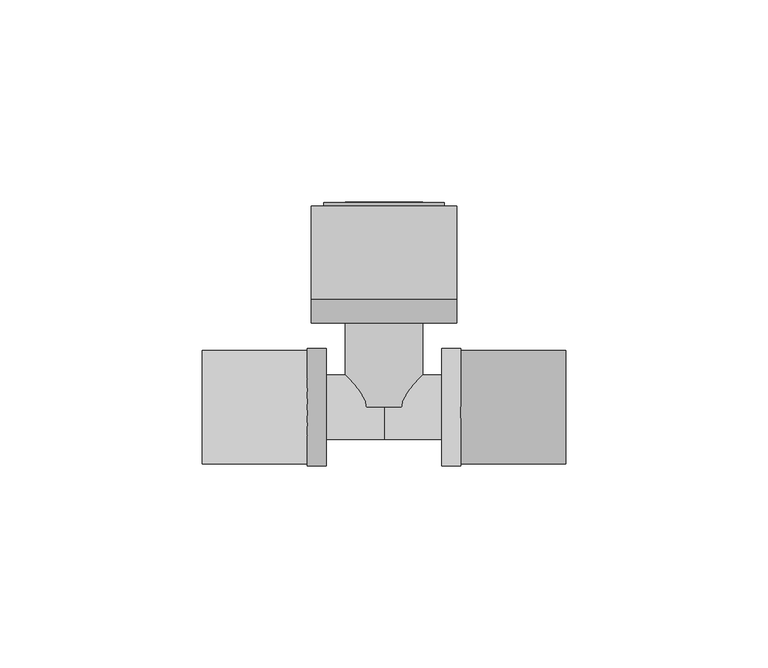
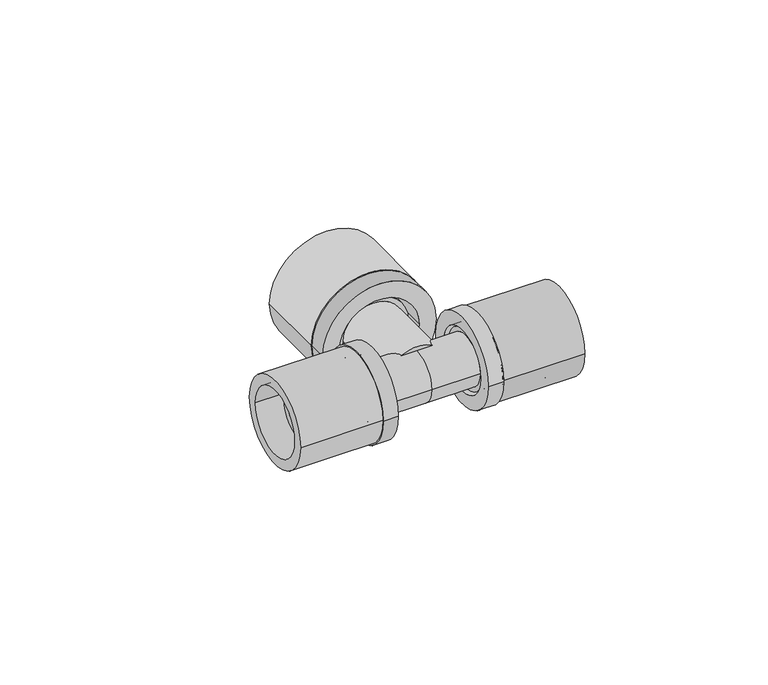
"""IFC4 building model written with IfcOpenShell, lengths in millimetres: pipe fitting geometry, FASTLOC_T-piece_EX+ : FSL T-Piece EX+ AT."""

from ifc_helpers import new_model, si_unit, point, frame, origin, origin_2d, place, context, project, spatial, polyline, circle_curve, trimmed, segment, composite_curve, outline, extrude, source, transform, mapped, element, save
from ifc_brep_helpers import plane_surface, cylinder_surface, revolved_surface, advanced_brep


def pipe_fitting_c646100e(model_context):
    return source(origin(), model_context, "Body", "SolidModel", [
        extrude(outline(composite_curve([segment(trimmed(circle_curve(origin_2d(), 14.0), [point((-14.0, 0.0))], [point((14.0, 0.0))], False, "CARTESIAN"), True, "CONTINUOUS"), segment(trimmed(circle_curve(origin_2d(), 14.0), [point((14.0, 0.0))], [point((-14.0, 0.0))], False, "CARTESIAN"), True, "CONTINUOUS")], self_intersect=False), holes=[composite_curve([segment(trimmed(circle_curve(origin_2d(), 10.7), [point((-10.7, 0.0))], [point((10.7, 0.0))], True, "CARTESIAN"), True, "CONTINUOUS"), segment(trimmed(circle_curve(origin_2d(), 10.7), [point((10.7, 0.0))], [point((-10.7, 0.0))], True, "CARTESIAN"), True, "CONTINUOUS")], self_intersect=False)]), frame((19.0, 0.0, 0.0), z_axis=(1.0, 0.0, 0.0), x_axis=(0.0, 1.0, 0.0)), (0.0, 0.0, 1.0), 26.0),
        advanced_brep(
        [(19.0, 14.5, 0.0), (19.0, -14.5, 0.0), (14.3, -14.5, 0.0), (14.3, 14.5, 0.0), (36.0, 11.85, 0.0), (36.0, -11.85, 0.0), (19.0, -11.85, 0.0), (19.0, 11.85, 0.0), (14.3, 10.15, 0.0), (14.3, -10.15, 0.0), (36.0, -10.15, 0.0), (36.0, 10.15, 0.0)],
        [
            (0, 1, circle_curve(frame((19.0, 0.0, 0.0), z_axis=(-1.0, 0.0, 0.0), x_axis=(0.0, -1.0, 0.0)), 14.5)),
            (1, 2),
            (2, 3, circle_curve(frame((14.3, 0.0, 0.0), z_axis=(1.0, 0.0, 0.0), x_axis=(0.0, -1.0, 0.0)), 14.5)),
            (3, 0),
            (4, 5, circle_curve(frame((36.0, 0.0, 0.0), z_axis=(-1.0, 0.0, 0.0), x_axis=(0.0, -1.0, 0.0)), 11.85)),
            (5, 6),
            (6, 7, circle_curve(frame((19.0, 0.0, 0.0), z_axis=(1.0, 0.0, 0.0), x_axis=(0.0, -1.0, 0.0)), 11.85)),
            (7, 4),
            (8, 9, circle_curve(frame((14.3, 0.0, 0.0), z_axis=(-1.0, 0.0, 0.0), x_axis=(0.0, -1.0, 0.0)), 10.15)),
            (9, 10),
            (10, 11, circle_curve(frame((36.0, 0.0, 0.0), z_axis=(1.0, 0.0, 0.0), x_axis=(0.0, -1.0, 0.0)), 10.15)),
            (11, 8),
            (1, 0, circle_curve(frame((19.0, 0.0, 0.0), z_axis=(-1.0, 0.0, 0.0), x_axis=(0.0, 1.0, 0.0)), 14.5)),
            (3, 2, circle_curve(frame((14.3, 0.0, 0.0), z_axis=(1.0, 0.0, 0.0), x_axis=(0.0, 1.0, 0.0)), 14.5)),
            (6, 7, circle_curve(frame((19.0, 0.0, 0.0), z_axis=(-1.0, 0.0, 0.0), x_axis=(0.0, 1.0, 0.0)), 11.85)),
            (5, 4, circle_curve(frame((36.0, 0.0, 0.0), z_axis=(-1.0, 0.0, 0.0), x_axis=(0.0, 1.0, 0.0)), 11.85)),
            (10, 11, circle_curve(frame((36.0, 0.0, 0.0), z_axis=(-1.0, 0.0, 0.0), x_axis=(0.0, 1.0, 0.0)), 10.15)),
            (9, 8, circle_curve(frame((14.3, 0.0, 0.0), z_axis=(-1.0, 0.0, 0.0), x_axis=(0.0, 1.0, 0.0)), 10.15)),
        ],
        [
            cylinder_surface(frame((14.3, 0.0, 0.0), z_axis=(1.0, 0.0, 0.0), x_axis=(0.0, -1.0, 0.0)), 14.5),
            cylinder_surface(frame((14.3, 0.0, 0.0), z_axis=(1.0, 0.0, 0.0), x_axis=(0.0, -1.0, 0.0)), 11.85),
            revolved_surface(polyline([(36.0, -10.15, 0.0), (14.3, -10.15, 0.0)]), (14.3, 0.0, 0.0), (1.0, 0.0, 0.0)),
            cylinder_surface(frame((14.3, 0.0, 0.0), z_axis=(1.0, 0.0, 0.0), x_axis=(0.0, 1.0, 0.0)), 14.5),
            plane_surface(frame((19.0, 0.0, 0.0), z_axis=(1.0, 0.0, 0.0), x_axis=(0.0, 1.0, 0.0))),
            cylinder_surface(frame((14.3, 0.0, 0.0), z_axis=(1.0, 0.0, 0.0), x_axis=(0.0, 1.0, 0.0)), 11.85),
            plane_surface(frame((36.0, 0.0, 0.0), z_axis=(1.0, 0.0, 0.0), x_axis=(0.0, 1.0, 0.0))),
            revolved_surface(polyline([(36.0, 10.15, 0.0), (14.3, 10.15, 0.0)]), (14.3, 0.0, 0.0), (1.0, 0.0, 0.0)),
            plane_surface(frame((14.3, 0.0, 0.0), z_axis=(-1.0, 0.0, 0.0), x_axis=(0.0, 1.0, 0.0))),
        ],
        [
            (0, [[1, 2, 3, 4]]),
            (1, [[5, 6, 7, 8]]),
            (2, [[9, 10, 11, 12]]),
            (3, [[13, -4, 14, -2]]),
            (4, [[-13, -1], [15, -7]]),
            (5, [[16, -8, -15, -6]]),
            (6, [[-16, -5], [17, -11]]),
            (7, [[18, -12, -17, -10]]),
            (8, [[-14, -3], [-18, -9]]),
        ],
    ),
        extrude(outline(composite_curve([segment(trimmed(circle_curve(origin_2d(), 14.0), [point((14.0, 0.0))], [point((-14.0, 0.0))], False, "CARTESIAN"), True, "CONTINUOUS"), segment(trimmed(circle_curve(origin_2d(), 14.0), [point((-14.0, 0.0))], [point((14.0, 0.0))], False, "CARTESIAN"), True, "CONTINUOUS")], self_intersect=False), holes=[composite_curve([segment(trimmed(circle_curve(origin_2d(), 10.7), [point((10.7, 0.0))], [point((-10.7, 0.0))], True, "CARTESIAN"), True, "CONTINUOUS"), segment(trimmed(circle_curve(origin_2d(), 10.7), [point((-10.7, 0.0))], [point((10.7, 0.0))], True, "CARTESIAN"), True, "CONTINUOUS")], self_intersect=False)]), frame((-45.0, 0.0, 0.0), z_axis=(1.0, 0.0, 0.0), x_axis=(0.0, 1.0, 0.0)), (0.0, 0.0, 1.0), 26.0),
        advanced_brep(
        [(-19.0, -14.5, 0.0), (-19.0, 14.5, 0.0), (-14.3, 14.5, 0.0), (-14.3, -14.5, 0.0), (-36.0, -11.85, 0.0), (-36.0, 11.85, 0.0), (-19.0, 11.85, 0.0), (-19.0, -11.85, 0.0), (-14.3, -10.15, 0.0), (-14.3, 10.15, 0.0), (-36.0, 10.15, 0.0), (-36.0, -10.15, 0.0)],
        [
            (0, 1, circle_curve(frame((-19.0, 0.0, 0.0), z_axis=(1.0, 0.0, 0.0), x_axis=(0.0, 1.0, 0.0)), 14.5)),
            (1, 2),
            (2, 3, circle_curve(frame((-14.3, 0.0, 0.0), z_axis=(-1.0, 0.0, 0.0), x_axis=(0.0, 1.0, 0.0)), 14.5)),
            (3, 0),
            (4, 5, circle_curve(frame((-36.0, 0.0, 0.0), z_axis=(1.0, 0.0, 0.0), x_axis=(0.0, 1.0, 0.0)), 11.85)),
            (5, 6),
            (6, 7, circle_curve(frame((-19.0, 0.0, 0.0), z_axis=(-1.0, 0.0, 0.0), x_axis=(0.0, 1.0, 0.0)), 11.85)),
            (7, 4),
            (8, 9, circle_curve(frame((-14.3, 0.0, 0.0), z_axis=(1.0, 0.0, 0.0), x_axis=(0.0, 1.0, 0.0)), 10.15)),
            (9, 10),
            (10, 11, circle_curve(frame((-36.0, 0.0, 0.0), z_axis=(-1.0, 0.0, 0.0), x_axis=(0.0, 1.0, 0.0)), 10.15)),
            (11, 8),
            (1, 0, circle_curve(frame((-19.0, 0.0, 0.0), z_axis=(1.0, 0.0, 0.0), x_axis=(0.0, -1.0, 0.0)), 14.5)),
            (3, 2, circle_curve(frame((-14.3, 0.0, 0.0), z_axis=(-1.0, 0.0, 0.0), x_axis=(0.0, -1.0, 0.0)), 14.5)),
            (6, 7, circle_curve(frame((-19.0, 0.0, 0.0), z_axis=(1.0, 0.0, 0.0), x_axis=(0.0, -1.0, 0.0)), 11.85)),
            (5, 4, circle_curve(frame((-36.0, 0.0, 0.0), z_axis=(1.0, 0.0, 0.0), x_axis=(0.0, -1.0, 0.0)), 11.85)),
            (10, 11, circle_curve(frame((-36.0, 0.0, 0.0), z_axis=(1.0, 0.0, 0.0), x_axis=(0.0, -1.0, 0.0)), 10.15)),
            (9, 8, circle_curve(frame((-14.3, 0.0, 0.0), z_axis=(1.0, 0.0, 0.0), x_axis=(0.0, -1.0, 0.0)), 10.15)),
        ],
        [
            cylinder_surface(frame((-14.3, 0.0, 0.0), z_axis=(-1.0, 0.0, 0.0), x_axis=(0.0, 1.0, 0.0)), 14.5),
            cylinder_surface(frame((-14.3, 0.0, 0.0), z_axis=(-1.0, 0.0, 0.0), x_axis=(0.0, 1.0, 0.0)), 11.85),
            revolved_surface(polyline([(-36.0, 10.15, 0.0), (-14.3, 10.15, 0.0)]), (-14.3, 0.0, 0.0), (-1.0, 0.0, 0.0)),
            cylinder_surface(frame((-14.3, 0.0, 0.0), z_axis=(-1.0, 0.0, 0.0), x_axis=(0.0, -1.0, 0.0)), 14.5),
            plane_surface(frame((-19.0, 0.0, 0.0), z_axis=(-1.0, 0.0, 0.0), x_axis=(0.0, -1.0, 0.0))),
            cylinder_surface(frame((-14.3, 0.0, 0.0), z_axis=(-1.0, 0.0, 0.0), x_axis=(0.0, -1.0, 0.0)), 11.85),
            plane_surface(frame((-36.0, 0.0, 0.0), z_axis=(-1.0, 0.0, 0.0), x_axis=(0.0, -1.0, 0.0))),
            revolved_surface(polyline([(-36.0, -10.15, 0.0), (-14.3, -10.15, 0.0)]), (-14.3, 0.0, 0.0), (-1.0, 0.0, 0.0)),
            plane_surface(frame((-14.3, 0.0, 0.0), z_axis=(1.0, 0.0, 0.0), x_axis=(0.0, -1.0, 0.0))),
        ],
        [
            (0, [[1, 2, 3, 4]]),
            (1, [[5, 6, 7, 8]]),
            (2, [[9, 10, 11, 12]]),
            (3, [[13, -4, 14, -2]]),
            (4, [[-13, -1], [15, -7]]),
            (5, [[16, -8, -15, -6]]),
            (6, [[-16, -5], [17, -11]]),
            (7, [[18, -12, -17, -10]]),
            (8, [[-14, -3], [-18, -9]]),
        ],
    ),
        extrude(outline(composite_curve([segment(trimmed(circle_curve(origin_2d(), 18.0), [point((0.0, 18.0))], [point((0.0, -18.0))], False, "CARTESIAN"), True, "CONTINUOUS"), segment(trimmed(circle_curve(origin_2d(), 18.0), [point((0.0, -18.0))], [point((0.0, 18.0))], False, "CARTESIAN"), True, "CONTINUOUS")], self_intersect=False), holes=[composite_curve([segment(trimmed(circle_curve(origin_2d(), 13.5), [point((0.0, 13.5))], [point((0.0, -13.5))], True, "CARTESIAN"), True, "CONTINUOUS"), segment(trimmed(circle_curve(origin_2d(), 13.5), [point((0.0, -13.5))], [point((0.0, 13.5))], True, "CARTESIAN"), True, "CONTINUOUS")], self_intersect=False)]), frame((0.0, 26.8, 0.0), z_axis=(0.0, 1.0, 0.0), x_axis=(0.0, 0.0, 1.0)), (0.0, 0.0, 1.0), 23.0),
        advanced_brep(
        [(-18.0, 26.8, 0.0), (18.0, 26.8, 0.0), (18.0, 20.8, 0.0), (-18.0, 20.8, 0.0), (-14.85, 50.6, 0.0), (14.85, 50.6, 0.0), (14.85, 26.8, 0.0), (-14.85, 26.8, 0.0), (-12.65, 20.8, 0.0), (12.65, 20.8, 0.0), (12.65, 50.6, 0.0), (-12.65, 50.6, 0.0)],
        [
            (0, 1, circle_curve(frame((0.0, 26.8, 0.0), z_axis=(0.0, -1.0, 0.0), x_axis=(1.0, 0.0, 0.0)), 18.0)),
            (1, 2),
            (2, 3, circle_curve(frame((0.0, 20.8, 0.0), z_axis=(0.0, 1.0, 0.0), x_axis=(1.0, 0.0, 0.0)), 18.0)),
            (3, 0),
            (4, 5, circle_curve(frame((0.0, 50.6, 0.0), z_axis=(0.0, -1.0, 0.0), x_axis=(1.0, 0.0, 0.0)), 14.85)),
            (5, 6),
            (6, 7, circle_curve(frame((0.0, 26.8, 0.0), z_axis=(0.0, 1.0, 0.0), x_axis=(1.0, 0.0, 0.0)), 14.85)),
            (7, 4),
            (8, 9, circle_curve(frame((0.0, 20.8, 0.0), z_axis=(0.0, -1.0, 0.0), x_axis=(1.0, 0.0, 0.0)), 12.65)),
            (9, 10),
            (10, 11, circle_curve(frame((0.0, 50.6, 0.0), z_axis=(0.0, 1.0, 0.0), x_axis=(1.0, 0.0, 0.0)), 12.65)),
            (11, 8),
            (1, 0, circle_curve(frame((0.0, 26.8, 0.0), z_axis=(0.0, -1.0, 0.0), x_axis=(-1.0, 0.0, 0.0)), 18.0)),
            (3, 2, circle_curve(frame((0.0, 20.8, 0.0), z_axis=(0.0, 1.0, 0.0), x_axis=(-1.0, 0.0, 0.0)), 18.0)),
            (6, 7, circle_curve(frame((0.0, 26.8, 0.0), z_axis=(0.0, -1.0, 0.0), x_axis=(-1.0, 0.0, 0.0)), 14.85)),
            (5, 4, circle_curve(frame((0.0, 50.6, 0.0), z_axis=(0.0, -1.0, 0.0), x_axis=(-1.0, 0.0, 0.0)), 14.85)),
            (10, 11, circle_curve(frame((0.0, 50.6, 0.0), z_axis=(0.0, -1.0, 0.0), x_axis=(-1.0, 0.0, 0.0)), 12.65)),
            (9, 8, circle_curve(frame((0.0, 20.8, 0.0), z_axis=(0.0, -1.0, 0.0), x_axis=(-1.0, 0.0, 0.0)), 12.65)),
        ],
        [
            cylinder_surface(frame((0.0, 20.8, 0.0), z_axis=(0.0, 1.0, 0.0), x_axis=(1.0, 0.0, 0.0)), 18.0),
            cylinder_surface(frame((0.0, 20.8, 0.0), z_axis=(0.0, 1.0, 0.0), x_axis=(1.0, 0.0, 0.0)), 14.85),
            revolved_surface(polyline([(12.65, 50.6, 0.0), (12.65, 20.8, 0.0)]), (0.0, 20.8, 0.0), (0.0, 1.0, 0.0)),
            cylinder_surface(frame((0.0, 20.8, 0.0), z_axis=(0.0, 1.0, 0.0), x_axis=(-1.0, 0.0, 0.0)), 18.0),
            plane_surface(frame((0.0, 26.8, 0.0), z_axis=(0.0, 1.0, 0.0), x_axis=(-1.0, 0.0, 0.0))),
            cylinder_surface(frame((0.0, 20.8, 0.0), z_axis=(0.0, 1.0, 0.0), x_axis=(-1.0, 0.0, 0.0)), 14.85),
            plane_surface(frame((0.0, 50.6, 0.0), z_axis=(0.0, 1.0, 0.0), x_axis=(-1.0, 0.0, 0.0))),
            revolved_surface(polyline([(-12.65, 50.6, 0.0), (-12.65, 20.8, 0.0)]), (0.0, 20.8, 0.0), (0.0, 1.0, 0.0)),
            plane_surface(frame((0.0, 20.8, 0.0), z_axis=(0.0, -1.0, 0.0), x_axis=(-1.0, 0.0, 0.0))),
        ],
        [
            (0, [[1, 2, 3, 4]]),
            (1, [[5, 6, 7, 8]]),
            (2, [[9, 10, 11, 12]]),
            (3, [[13, -4, 14, -2]]),
            (4, [[-13, -1], [15, -7]]),
            (5, [[16, -8, -15, -6]]),
            (6, [[-16, -5], [17, -11]]),
            (7, [[18, -12, -17, -10]]),
            (8, [[-14, -3], [-18, -9]]),
        ],
    ),
        advanced_brep(
        [(0.0, 8.0, 0.0), (0.0, -8.0, 0.0), (-15.3, -8.0, 0.0), (-15.3, 8.0, 0.0), (15.3, 8.0, 0.0), (15.3, -8.0, 0.0), (18.75, 9.425, 0.0), (18.75, -9.425, 0.0), (15.3, -9.425, 0.0), (15.3, 9.425, 0.0), (37.5, 8.0, 0.0), (37.5, -8.0, 0.0), (18.75, -8.0, 0.0), (18.75, 8.0, 0.0), (-37.5, 5.75, 0.0), (-37.5, -5.75, 0.0), (37.5, -5.75, 0.0), (37.5, 5.75, 0.0), (-18.75, 8.0, 0.0), (-18.75, -8.0, 0.0), (-37.5, -8.0, 0.0), (-37.5, 8.0, 0.0), (-15.3, 9.425, 0.0), (-15.3, -9.425, 0.0), (-18.75, -9.425, 0.0), (-18.75, 9.425, 0.0)],
        [
            (0, 1, circle_curve(frame((0.0, 0.0, 0.0), z_axis=(-1.0, 0.0, 0.0), x_axis=(0.0, -1.0, 0.0)), 8.0)),
            (1, 2),
            (2, 3, circle_curve(frame((-15.3, 0.0, 0.0), z_axis=(1.0, 0.0, 0.0), x_axis=(0.0, -1.0, 0.0)), 8.0)),
            (3, 0),
            (4, 5, circle_curve(frame((15.3, 0.0, 0.0), z_axis=(-1.0, 0.0, 0.0), x_axis=(0.0, -1.0, 0.0)), 8.0)),
            (5, 1),
            (0, 4),
            (6, 7, circle_curve(frame((18.75, 0.0, 0.0), z_axis=(-1.0, 0.0, 0.0), x_axis=(0.0, -1.0, 0.0)), 9.425)),
            (7, 8),
            (8, 9, circle_curve(frame((15.3, 0.0, 0.0), z_axis=(1.0, 0.0, 0.0), x_axis=(0.0, -1.0, 0.0)), 9.425)),
            (9, 6),
            (10, 11, circle_curve(frame((37.5, 0.0, 0.0), z_axis=(-1.0, 0.0, 0.0), x_axis=(0.0, -1.0, 0.0)), 8.0)),
            (11, 12),
            (12, 13, circle_curve(frame((18.75, 0.0, 0.0), z_axis=(1.0, 0.0, 0.0), x_axis=(0.0, -1.0, 0.0)), 8.0)),
            (13, 10),
            (14, 15, circle_curve(frame((-37.5, 0.0, 0.0), z_axis=(-1.0, 0.0, 0.0), x_axis=(0.0, -1.0, 0.0)), 5.75)),
            (15, 16),
            (16, 17, circle_curve(frame((37.5, 0.0, 0.0), z_axis=(1.0, 0.0, 0.0), x_axis=(0.0, -1.0, 0.0)), 5.75)),
            (17, 14),
            (18, 19, circle_curve(frame((-18.75, 0.0, 0.0), z_axis=(-1.0, 0.0, 0.0), x_axis=(0.0, -1.0, 0.0)), 8.0)),
            (19, 20),
            (20, 21, circle_curve(frame((-37.5, 0.0, 0.0), z_axis=(1.0, 0.0, 0.0), x_axis=(0.0, -1.0, 0.0)), 8.0)),
            (21, 18),
            (22, 23, circle_curve(frame((-15.3, 0.0, 0.0), z_axis=(-1.0, 0.0, 0.0), x_axis=(0.0, -1.0, 0.0)), 9.425)),
            (23, 24),
            (24, 25, circle_curve(frame((-18.75, 0.0, 0.0), z_axis=(1.0, 0.0, 0.0), x_axis=(0.0, -1.0, 0.0)), 9.425)),
            (25, 22),
            (22, 23, circle_curve(frame((-15.3, 0.0, 0.0), z_axis=(1.0, 0.0, 0.0), x_axis=(0.0, 1.0, 0.0)), 9.425)),
            (2, 3, circle_curve(frame((-15.3, 0.0, 0.0), z_axis=(-1.0, 0.0, 0.0), x_axis=(0.0, 1.0, 0.0)), 8.0)),
            (1, 0, circle_curve(frame((0.0, 0.0, 0.0), z_axis=(-1.0, 0.0, 0.0), x_axis=(0.0, 1.0, 0.0)), 8.0)),
            (5, 4, circle_curve(frame((15.3, 0.0, 0.0), z_axis=(-1.0, 0.0, 0.0), x_axis=(0.0, 1.0, 0.0)), 8.0)),
            (8, 9, circle_curve(frame((15.3, 0.0, 0.0), z_axis=(-1.0, 0.0, 0.0), x_axis=(0.0, 1.0, 0.0)), 9.425)),
            (7, 6, circle_curve(frame((18.75, 0.0, 0.0), z_axis=(-1.0, 0.0, 0.0), x_axis=(0.0, 1.0, 0.0)), 9.425)),
            (12, 13, circle_curve(frame((18.75, 0.0, 0.0), z_axis=(-1.0, 0.0, 0.0), x_axis=(0.0, 1.0, 0.0)), 8.0)),
            (11, 10, circle_curve(frame((37.5, 0.0, 0.0), z_axis=(-1.0, 0.0, 0.0), x_axis=(0.0, 1.0, 0.0)), 8.0)),
            (16, 17, circle_curve(frame((37.5, 0.0, 0.0), z_axis=(-1.0, 0.0, 0.0), x_axis=(0.0, 1.0, 0.0)), 5.75)),
            (15, 14, circle_curve(frame((-37.5, 0.0, 0.0), z_axis=(-1.0, 0.0, 0.0), x_axis=(0.0, 1.0, 0.0)), 5.75)),
            (20, 21, circle_curve(frame((-37.5, 0.0, 0.0), z_axis=(-1.0, 0.0, 0.0), x_axis=(0.0, 1.0, 0.0)), 8.0)),
            (19, 18, circle_curve(frame((-18.75, 0.0, 0.0), z_axis=(-1.0, 0.0, 0.0), x_axis=(0.0, 1.0, 0.0)), 8.0)),
            (24, 25, circle_curve(frame((-18.75, 0.0, 0.0), z_axis=(-1.0, 0.0, 0.0), x_axis=(0.0, 1.0, 0.0)), 9.425)),
        ],
        [
            cylinder_surface(frame((0.0, 0.0, 0.0), z_axis=(1.0, 0.0, 0.0), x_axis=(0.0, -1.0, 0.0)), 8.0),
            cylinder_surface(frame((0.0, 0.0, 0.0), z_axis=(1.0, 0.0, 0.0), x_axis=(0.0, -1.0, 0.0)), 9.425),
            revolved_surface(polyline([(37.5, -5.75, 0.0), (-37.5, -5.75, 0.0)]), (0.0, 0.0, 0.0), (1.0, 0.0, 0.0)),
            plane_surface(frame((-15.3, 0.0, 0.0), z_axis=(1.0, 0.0, 0.0), x_axis=(0.0, 1.0, 0.0))),
            cylinder_surface(frame((0.0, 0.0, 0.0), z_axis=(1.0, 0.0, 0.0), x_axis=(0.0, 1.0, 0.0)), 8.0),
            plane_surface(frame((15.3, 0.0, 0.0), z_axis=(-1.0, 0.0, 0.0), x_axis=(0.0, 1.0, 0.0))),
            cylinder_surface(frame((0.0, 0.0, 0.0), z_axis=(1.0, 0.0, 0.0), x_axis=(0.0, 1.0, 0.0)), 9.425),
            plane_surface(frame((18.75, 0.0, 0.0), z_axis=(1.0, 0.0, 0.0), x_axis=(0.0, 1.0, 0.0))),
            plane_surface(frame((37.5, 0.0, 0.0), z_axis=(1.0, 0.0, 0.0), x_axis=(0.0, 1.0, 0.0))),
            revolved_surface(polyline([(37.5, 5.75, 0.0), (-37.5, 5.75, 0.0)]), (0.0, 0.0, 0.0), (1.0, 0.0, 0.0)),
            plane_surface(frame((-37.5, 0.0, 0.0), z_axis=(-1.0, 0.0, 0.0), x_axis=(0.0, 1.0, 0.0))),
            plane_surface(frame((-18.75, 0.0, 0.0), z_axis=(-1.0, 0.0, 0.0), x_axis=(0.0, 1.0, 0.0))),
        ],
        [
            (0, [[1, 2, 3, 4]]),
            (0, [[5, 6, -1, 7]]),
            (1, [[8, 9, 10, 11]]),
            (0, [[12, 13, 14, 15]]),
            (2, [[16, 17, 18, 19]]),
            (0, [[20, 21, 22, 23]]),
            (1, [[24, 25, 26, 27]]),
            (3, [[28, -24], [29, -3]]),
            (4, [[30, -4, -29, -2]]),
            (4, [[31, -7, -30, -6]]),
            (5, [[32, -10], [-31, -5]]),
            (6, [[33, -11, -32, -9]]),
            (7, [[-33, -8], [34, -14]]),
            (4, [[35, -15, -34, -13]]),
            (8, [[-35, -12], [36, -18]]),
            (9, [[37, -19, -36, -17]]),
            (10, [[38, -22], [-37, -16]]),
            (4, [[39, -23, -38, -21]]),
            (11, [[40, -26], [-39, -20]]),
            (6, [[-28, -27, -40, -25]]),
        ],
    ),
        advanced_brep(
        [(7.35, 50.8, 0.0), (-7.35, 50.8, 0.0), (-7.35, 0.0, 0.0), (7.35, 0.0, 0.0), (9.6, 0.0, 0.0), (-9.6, 0.0, 0.0), (-9.6, 24.0, 0.0), (9.6, 24.0, 0.0), (11.1, 24.0, 0.0), (-11.1, 24.0, 0.0), (-11.1, 26.8, 0.0), (11.1, 26.8, 0.0), (9.6, 26.8, 0.0), (-9.6, 26.8, 0.0), (-9.6, 50.8, 0.0), (9.6, 50.8, 0.0)],
        [
            (0, 1, circle_curve(frame((0.0, 50.8, 0.0), z_axis=(0.0, 1.0, 0.0), x_axis=(-1.0, 0.0, 0.0)), 7.35)),
            (1, 2),
            (2, 3, circle_curve(frame((0.0, 0.0, 0.0), z_axis=(0.0, -1.0, 0.0), x_axis=(-1.0, 0.0, 0.0)), 7.35)),
            (3, 0),
            (4, 5, circle_curve(frame((0.0, 0.0, 0.0), z_axis=(0.0, 1.0, 0.0), x_axis=(-1.0, 0.0, 0.0)), 9.6)),
            (5, 6),
            (6, 7, circle_curve(frame((0.0, 24.0, 0.0), z_axis=(0.0, -1.0, 0.0), x_axis=(-1.0, 0.0, 0.0)), 9.6)),
            (7, 4),
            (8, 9, circle_curve(frame((0.0, 24.0, 0.0), z_axis=(0.0, 1.0, 0.0), x_axis=(-1.0, 0.0, 0.0)), 11.1)),
            (9, 10),
            (10, 11, circle_curve(frame((0.0, 26.8, 0.0), z_axis=(0.0, -1.0, 0.0), x_axis=(-1.0, 0.0, 0.0)), 11.1)),
            (11, 8),
            (12, 13, circle_curve(frame((0.0, 26.8, 0.0), z_axis=(0.0, 1.0, 0.0), x_axis=(-1.0, 0.0, 0.0)), 9.6)),
            (13, 14),
            (14, 15, circle_curve(frame((0.0, 50.8, 0.0), z_axis=(0.0, -1.0, 0.0), x_axis=(-1.0, 0.0, 0.0)), 9.6)),
            (15, 12),
            (1, 0, circle_curve(frame((0.0, 50.8, 0.0), z_axis=(0.0, 1.0, 0.0), x_axis=(1.0, 0.0, 0.0)), 7.35)),
            (3, 2, circle_curve(frame((0.0, 0.0, 0.0), z_axis=(0.0, -1.0, 0.0), x_axis=(1.0, 0.0, 0.0)), 7.35)),
            (4, 5, circle_curve(frame((0.0, 0.0, 0.0), z_axis=(0.0, -1.0, 0.0), x_axis=(1.0, 0.0, 0.0)), 9.6)),
            (7, 6, circle_curve(frame((0.0, 24.0, 0.0), z_axis=(0.0, -1.0, 0.0), x_axis=(1.0, 0.0, 0.0)), 9.6)),
            (8, 9, circle_curve(frame((0.0, 24.0, 0.0), z_axis=(0.0, -1.0, 0.0), x_axis=(1.0, 0.0, 0.0)), 11.1)),
            (11, 10, circle_curve(frame((0.0, 26.8, 0.0), z_axis=(0.0, -1.0, 0.0), x_axis=(1.0, 0.0, 0.0)), 11.1)),
            (12, 13, circle_curve(frame((0.0, 26.8, 0.0), z_axis=(0.0, -1.0, 0.0), x_axis=(1.0, 0.0, 0.0)), 9.6)),
            (15, 14, circle_curve(frame((0.0, 50.8, 0.0), z_axis=(0.0, -1.0, 0.0), x_axis=(1.0, 0.0, 0.0)), 9.6)),
        ],
        [
            revolved_surface(polyline([(-7.35, 0.0, 0.0), (-7.35, 50.8, 0.0)]), (0.0, 0.0, 0.0), (0.0, -1.0, 0.0)),
            cylinder_surface(frame((0.0, 0.0, 0.0), z_axis=(0.0, -1.0, 0.0), x_axis=(-1.0, 0.0, 0.0)), 9.6),
            cylinder_surface(frame((0.0, 0.0, 0.0), z_axis=(0.0, -1.0, 0.0), x_axis=(-1.0, 0.0, 0.0)), 11.1),
            revolved_surface(polyline([(7.35, 0.0, 0.0), (7.35, 50.8, 0.0)]), (0.0, 0.0, 0.0), (0.0, -1.0, 0.0)),
            plane_surface(frame((0.0, 0.0, 0.0), z_axis=(0.0, -1.0, 0.0), x_axis=(1.0, 0.0, 0.0))),
            cylinder_surface(frame((0.0, 0.0, 0.0), z_axis=(0.0, -1.0, 0.0), x_axis=(1.0, 0.0, 0.0)), 9.6),
            plane_surface(frame((0.0, 24.0, 0.0), z_axis=(0.0, -1.0, 0.0), x_axis=(1.0, 0.0, 0.0))),
            cylinder_surface(frame((0.0, 0.0, 0.0), z_axis=(0.0, -1.0, 0.0), x_axis=(1.0, 0.0, 0.0)), 11.1),
            plane_surface(frame((0.0, 26.8, 0.0), z_axis=(0.0, 1.0, 0.0), x_axis=(1.0, 0.0, 0.0))),
            plane_surface(frame((0.0, 50.8, 0.0), z_axis=(0.0, 1.0, 0.0), x_axis=(1.0, 0.0, 0.0))),
        ],
        [
            (0, [[1, 2, 3, 4]]),
            (1, [[5, 6, 7, 8]]),
            (2, [[9, 10, 11, 12]]),
            (1, [[13, 14, 15, 16]]),
            (3, [[17, -4, 18, -2]]),
            (4, [[19, -5], [-18, -3]]),
            (5, [[-19, -8, 20, -6]]),
            (6, [[21, -9], [-20, -7]]),
            (7, [[-21, -12, 22, -10]]),
            (8, [[-22, -11], [23, -13]]),
            (5, [[-23, -16, 24, -14]]),
            (9, [[-24, -15], [-17, -1]]),
        ],
    ),
    ])


if __name__ == "__main__":
    model = new_model("IFC4")
    model_context = context("Model", 3, world=origin())
    ifc_project = project(units=[si_unit("LENGTHUNIT", "METRE", prefix="MILLI")], contexts=[model_context])
    site = spatial("IfcSite", under=ifc_project)
    building = spatial("IfcBuilding", under=site)
    placement = place(None, origin())
    pipe_fitting_shape = pipe_fitting_c646100e(model_context)
    element("IfcPipeFitting", 1, ObjectType="FASTLOC_T-piece_EX+ : FSL T-Piece EX+ AT", at=placement, inside=building, context=model_context, shape_type="MappedRepresentation", body=[
        mapped(pipe_fitting_shape, transform((0.0, 0.0, 0.0), x_axis=(1.0, 0.0, 0.0), y_axis=(0.0, 1.0, 0.0), z_axis=(0.0, 0.0, 1.0))),
    ])
    save(model, "model.ifc")
